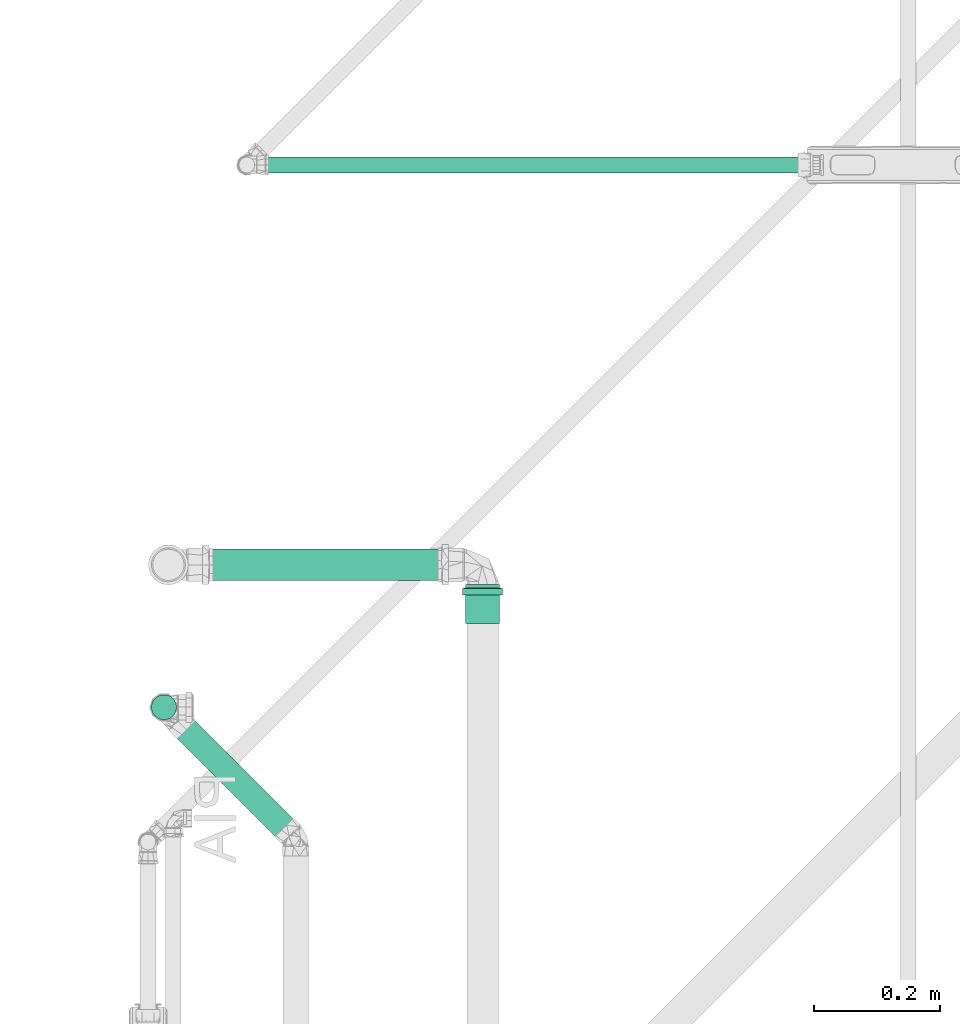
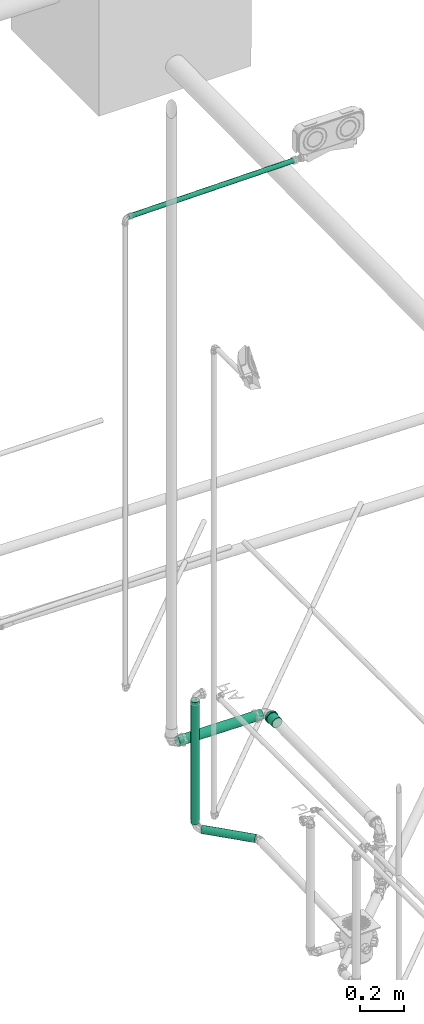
# One storey, part 201 of 589: 4 flow segments, 1 flow fitting.
"""IFC2X3 building model written with IfcOpenShell, lengths in millimetres."""

from ifc_helpers import new_model, entity, si_unit, converted_unit, derived_unit, direction, frame, frame_2d, origin, origin_2d_with_axis, place, context, subcontext, project, spatial, circle, extrude, faceted_brep, source, transform, mapped, material, type_object, type_shapes, element, save


model = new_model("IFC2X3")

# Units and contexts
model_context = context("Model", 3, precision=0.01, world=origin(), true_north=direction((6.123031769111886e-17, 1.0)))
body_context = subcontext(model_context, "Body", "Model", "MODEL_VIEW")
ifc_project = project(units=[si_unit("LENGTHUNIT", "METRE", prefix="MILLI"), si_unit("AREAUNIT", "SQUARE_METRE"), si_unit("VOLUMEUNIT", "CUBIC_METRE"), converted_unit("PLANEANGLEUNIT", "DEGREE", entity("IfcRatioMeasure", 0.017453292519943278), si_unit("PLANEANGLEUNIT", "RADIAN"), dimensions=[0, 0, 0, 0, 0, 0, 0]), si_unit("MASSUNIT", "GRAM", prefix="KILO"), derived_unit("MASSDENSITYUNIT", [(si_unit("MASSUNIT", "GRAM", prefix="KILO"), 1), (si_unit("LENGTHUNIT", "METRE"), -3)]), derived_unit("IONCONCENTRATIONUNIT", [(si_unit("MASSUNIT", "GRAM", prefix="KILO"), 1), (si_unit("LENGTHUNIT", "METRE"), -3)]), derived_unit("MOMENTOFINERTIAUNIT", [(si_unit("LENGTHUNIT", "METRE"), 4)]), si_unit("TIMEUNIT", "SECOND"), si_unit("FREQUENCYUNIT", "HERTZ"), si_unit("THERMODYNAMICTEMPERATUREUNIT", "DEGREE_CELSIUS"), derived_unit("THERMALTRANSMITTANCEUNIT", [(si_unit("MASSUNIT", "GRAM", prefix="KILO"), 1), (si_unit("THERMODYNAMICTEMPERATUREUNIT", "KELVIN"), -1), (si_unit("TIMEUNIT", "SECOND"), -3)]), derived_unit("THERMALCONDUCTANCEUNIT", [(si_unit("MASSUNIT", "GRAM", prefix="KILO"), 1), (si_unit("THERMODYNAMICTEMPERATUREUNIT", "KELVIN"), -1), (si_unit("TIMEUNIT", "SECOND"), -3), (si_unit("LENGTHUNIT", "METRE"), 1)]), derived_unit("VOLUMETRICFLOWRATEUNIT", [(si_unit("LENGTHUNIT", "METRE"), 3), (si_unit("TIMEUNIT", "SECOND"), -1)]), derived_unit("MASSFLOWRATEUNIT", [(si_unit("MASSUNIT", "GRAM", prefix="KILO"), 1), (si_unit("TIMEUNIT", "SECOND"), -1)]), derived_unit("ROTATIONALFREQUENCYUNIT", [(si_unit("TIMEUNIT", "SECOND"), -1)]), si_unit("ELECTRICCURRENTUNIT", "AMPERE"), si_unit("ELECTRICVOLTAGEUNIT", "VOLT"), si_unit("POWERUNIT", "WATT"), si_unit("FORCEUNIT", "NEWTON", prefix="KILO"), si_unit("ILLUMINANCEUNIT", "LUX"), si_unit("LUMINOUSFLUXUNIT", "LUMEN"), si_unit("LUMINOUSINTENSITYUNIT", "CANDELA"), derived_unit("USERDEFINED", [(si_unit("MASSUNIT", "GRAM", prefix="KILO"), -1), (si_unit("LENGTHUNIT", "METRE"), -2), (si_unit("TIMEUNIT", "SECOND"), 3), (si_unit("LUMINOUSFLUXUNIT", "LUMEN"), 1)]), derived_unit("USERDEFINED", [(si_unit("MASSUNIT", "GRAM", prefix="KILO"), 1), (si_unit("TIMEUNIT", "SECOND"), -3), (si_unit("LENGTHUNIT", "METRE"), 3), (si_unit("ELECTRICCURRENTUNIT", "AMPERE"), -2)]), derived_unit("SOUNDPOWERUNIT", [(si_unit("MASSUNIT", "GRAM", prefix="KILO"), 1), (si_unit("TIMEUNIT", "SECOND"), -3), (si_unit("LENGTHUNIT", "METRE"), 2)]), derived_unit("SOUNDPRESSUREUNIT", [(si_unit("MASSUNIT", "GRAM", prefix="KILO"), 1), (si_unit("LENGTHUNIT", "METRE"), -1), (si_unit("TIMEUNIT", "SECOND"), -2)]), derived_unit("LINEARVELOCITYUNIT", [(si_unit("LENGTHUNIT", "METRE"), 1), (si_unit("TIMEUNIT", "SECOND"), -1)]), si_unit("PRESSUREUNIT", "PASCAL"), derived_unit("USERDEFINED", [(si_unit("MASSUNIT", "GRAM", prefix="KILO"), 1), (si_unit("LENGTHUNIT", "METRE"), -2), (si_unit("TIMEUNIT", "SECOND"), -2)]), derived_unit("LINEARFORCEUNIT", [(si_unit("MASSUNIT", "GRAM", prefix="KILO"), 1), (si_unit("TIMEUNIT", "SECOND"), -2)]), derived_unit("PLANARFORCEUNIT", [(si_unit("MASSUNIT", "GRAM", prefix="KILO"), 1), (si_unit("LENGTHUNIT", "METRE"), -1), (si_unit("TIMEUNIT", "SECOND"), -2)]), derived_unit("SPECIFICHEATCAPACITYUNIT", [(si_unit("THERMODYNAMICTEMPERATUREUNIT", "KELVIN"), -1), (si_unit("LENGTHUNIT", "METRE"), 2), (si_unit("TIMEUNIT", "SECOND"), -2)]), derived_unit("HEATINGVALUEUNIT", [(si_unit("LENGTHUNIT", "METRE"), 2), (si_unit("TIMEUNIT", "SECOND"), -2)]), derived_unit("VAPORPERMEABILITYUNIT", [(si_unit("LENGTHUNIT", "METRE"), -1), (si_unit("TIMEUNIT", "SECOND"), 1)]), derived_unit("DYNAMICVISCOSITYUNIT", [(si_unit("MASSUNIT", "GRAM", prefix="KILO"), 1), (si_unit("TIMEUNIT", "SECOND"), -1), (si_unit("LENGTHUNIT", "METRE"), -1)]), derived_unit("THERMALEXPANSIONCOEFFICIENTUNIT", [(si_unit("THERMODYNAMICTEMPERATUREUNIT", "KELVIN"), -1)]), derived_unit("MODULUSOFELASTICITYUNIT", [(si_unit("MASSUNIT", "GRAM", prefix="KILO"), 1), (si_unit("LENGTHUNIT", "METRE"), -1), (si_unit("TIMEUNIT", "SECOND"), -2)]), derived_unit("ISOTHERMALMOISTURECAPACITYUNIT", [(si_unit("LENGTHUNIT", "METRE"), 3), (si_unit("MASSUNIT", "GRAM", prefix="KILO"), -1)]), derived_unit("MOISTUREDIFFUSIVITYUNIT", [(si_unit("TIMEUNIT", "SECOND"), -1), (si_unit("LENGTHUNIT", "METRE"), 2)])], contexts=[model_context])

# Site, building, storey
site_placement = place(None, origin())
site = spatial("IfcSite", under=ifc_project, at=site_placement, Name="Default", CompositionType="ELEMENT")
building_placement = place(site_placement, origin())
building = spatial("IfcBuilding", under=site, at=building_placement, CompositionType="ELEMENT")
storey_placement = place(building_placement, frame((0.0, 0.0, 100.0)))
storey = spatial("IfcBuildingStorey", under=building, at=storey_placement, Name="TÉRREO", CompositionType="ELEMENT", Elevation=100.0)

# Flow segments
pipe_segment_type_1 = type_object("IfcPipeSegmentType", Name="Tipos de tubos:PVC Esgoto Série Normal", PredefinedType="NOTDEFINED")
flow_segment_1_placement = place(storey_placement, origin())
element("IfcFlowSegment", 1, at=flow_segment_1_placement, inside=storey, type_object=pipe_segment_type_1, Name="Tipos de tubos:PVC Esgoto Série Normal", ObjectType="Tipos de tubos:PVC Esgoto Série Normal", context=body_context, shape_type="SweptSolid", body=[
    extrude(circle(Radius=20.0, at=frame_2d((2.9351172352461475e-32, 1.6916496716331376e-14), x_axis=(1.0, 0.0))), frame((7541.059678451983, 422.5035595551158, -237.90237167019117), z_axis=(-0.7070394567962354, 0.7068980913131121, 0.01975588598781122), x_axis=(-0.7070360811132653, -0.7071774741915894, 0.0)), (0.0, 0.0, 1.0), 253.07208697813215),
])
flow_segment_2_placement = place(storey_placement, origin())
element("IfcFlowSegment", 2, at=flow_segment_2_placement, inside=storey, type_object=pipe_segment_type_1, Name="Tipos de tubos:PVC Esgoto Série Normal", ObjectType="Tipos de tubos:PVC Esgoto Série Normal", context=body_context, shape_type="SweptSolid", body=[
    extrude(circle(Radius=20.0, at=origin_2d_with_axis()), frame((7339.351820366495, 624.1710881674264, -200.0532468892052)), (0.0, 0.0, 1.0), 678.2532473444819),
])
flow_segment_3_placement = place(storey_placement, origin())
element("IfcFlowSegment", 3, at=flow_segment_3_placement, inside=storey, type_object=pipe_segment_type_1, Name="Tipos de tubos:PVC Esgoto Série Normal", ObjectType="Tipos de tubos:PVC Esgoto Série Normal", context=body_context, shape_type="SweptSolid", body=[
    extrude(circle(Radius=25.0, at=frame_2d((1.353583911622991e-13, -3.383790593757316e-14), x_axis=(1.0, 0.0))), frame((7377.346982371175, 850.8590199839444, 98.13068865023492), z_axis=(0.9999500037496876, 0.0, -0.009999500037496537), x_axis=(0.0, 1.0, 0.0)), (0.0, 0.0, 1.0), 437.88630501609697),
])
pipe_segment_type_2 = type_object("IfcPipeSegmentType", Name="Tipos de tubos:PVC Marrom Soldável", PredefinedType="NOTDEFINED")
flow_segment_4_placement = place(storey_placement, origin())
element("IfcFlowSegment", 4, at=flow_segment_4_placement, inside=storey, type_object=pipe_segment_type_2, Name="Tipos de tubos:PVC Marrom Soldável", ObjectType="Tipos de tubos:PVC Marrom Soldável", context=body_context, shape_type="SweptSolid", body=[
    extrude(circle(Radius=12.5, at=origin_2d_with_axis()), frame((7487.843995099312, 1487.2074695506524, 2577.9470883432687), z_axis=(0.9999500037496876, 0.0, 0.00999950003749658), x_axis=(0.0, 1.0, 0.0)), (0.0, 0.0, 1.0), 877.005019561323),
])

# Flow fitting
ifc_material = material(Name="PVC Série Normal")
pipe_fitting_type = type_object("IfcPipeFittingType", Name="PVC Esgoto_Luva Simples para Conexão_Rodrigo MEP:Standard", PredefinedType="NOTDEFINED", material=ifc_material)
shared_shape = source(origin(), body_context, "Body", "Brep", [
    faceted_brep([(16.599999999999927, -13.599999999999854, -23.555890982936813), (16.599999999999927, -22.485995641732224, -22.485995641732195), (16.599999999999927, -15.900000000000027, -27.53960784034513), (16.599999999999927, -19.233304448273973, -19.233304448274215), (16.599999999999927, -7.039878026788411, -26.273182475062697), (16.599999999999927, -27.539607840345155, -15.899999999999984), (16.599999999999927, -23.55589098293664, -13.600000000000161), (16.599999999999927, -26.273182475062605, -7.03987802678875), (16.599999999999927, -30.716441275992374, -8.230445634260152), (16.599999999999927, -27.2, 0.0), (16.599999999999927, -31.8, 0.0), (16.599999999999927, -26.273182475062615, 7.0398780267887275), (16.599999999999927, -30.71644127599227, 8.23044563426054), (16.599999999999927, -23.555890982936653, 13.60000000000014), (16.599999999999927, -27.539607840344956, 15.900000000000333), (16.599999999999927, -19.233304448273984, 19.2333044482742), (16.599999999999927, -22.485995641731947, 22.48599564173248), (16.599999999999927, -13.599999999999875, 23.555890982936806), (16.599999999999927, -15.899999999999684, 27.53960784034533), (16.599999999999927, -7.039878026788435, 26.27318247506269), (16.599999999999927, -8.230445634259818, 30.716441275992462), (16.599999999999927, 0.0, 27.2), (16.599999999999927, 0.0, 31.8), (16.599999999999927, 7.039878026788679, 26.273182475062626), (16.599999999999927, 8.230445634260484, 30.716441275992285), (16.599999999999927, 13.600000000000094, 23.555890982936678), (16.599999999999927, 15.900000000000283, 27.53960784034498), (16.599999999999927, 19.23330444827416, 19.233304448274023), (16.599999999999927, 22.485995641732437, 22.48599564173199), (16.599999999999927, 23.55589098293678, 13.59999999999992), (16.599999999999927, 27.539607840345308, 15.899999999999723), (16.599999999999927, 30.71644127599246, 8.230445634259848), (16.599999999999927, 26.273182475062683, 7.039878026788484), (16.599999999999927, 31.8, 0.0), (16.599999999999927, 27.2, 0.0), (16.599999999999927, 30.71644127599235, -8.23044563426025), (16.599999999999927, 26.273182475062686, -7.03987802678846), (16.599999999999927, 27.53960784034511, -15.90000000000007), (16.599999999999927, 23.55589098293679, -13.599999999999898), (16.599999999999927, 22.485995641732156, -22.485995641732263), (16.599999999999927, 19.233304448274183, -19.233304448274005), (16.599999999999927, 15.899999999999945, -27.53960784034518), (16.599999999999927, 13.600000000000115, -23.555890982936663), (16.599999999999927, 8.230445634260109, -30.716441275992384), (16.599999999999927, 7.039878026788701, -26.273182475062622), (16.599999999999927, 0.0, -31.8), (16.599999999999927, 0.0, -27.2), (16.599999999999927, -8.2304456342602, -30.71644127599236), (6.5000000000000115, 31.8, 0.0), (6.500000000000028, 30.243828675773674, 9.826028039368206), (6.500000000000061, 18.6933889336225, 25.72541953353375), (6.500000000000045, 25.727620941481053, 18.69035903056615), (6.500000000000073, 9.829589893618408, 30.24267122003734), (6.50000000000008, 0.0037451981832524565, 31.799999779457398), (6.5000000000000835, -9.822466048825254, 30.244985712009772), (6.500000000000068, -25.723217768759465, 18.696418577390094), (6.50000000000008, -18.687328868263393, 25.729821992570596), (6.50000000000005, -30.24167131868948, 9.832665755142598), (6.5000000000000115, -31.8, 0.0), (6.499999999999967, -24.364200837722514, -20.435892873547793), (6.499999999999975, -27.12442527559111, -15.652735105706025), (6.499999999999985, -29.884649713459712, -10.869577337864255), (6.499999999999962, -20.134403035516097, -23.986420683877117), (6.4999999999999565, -15.904605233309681, -27.53694849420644), (6.499999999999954, -10.715490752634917, -29.42653259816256), (6.499999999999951, -5.526376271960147, -31.31611670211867), (6.499999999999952, -0.003927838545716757, -31.316809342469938), (6.499999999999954, 5.518520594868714, -31.317501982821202), (6.499999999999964, 15.897697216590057, -27.54093722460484), (6.499999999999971, 20.128385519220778, -23.99147055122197), (6.499999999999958, 10.70810890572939, -29.42921960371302), (6.499999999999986, 27.12049800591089, -15.659538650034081), (6.499999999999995, 29.881922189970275, -10.877073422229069), (6.499999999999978, 24.359073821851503, -20.442003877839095), (6.499999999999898, 30.69617385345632, -6.259599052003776), (6.500000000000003, 30.84096109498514, -5.438536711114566), (62.0, -12.499999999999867, -21.650635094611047), (62.0, -19.233304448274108, -19.23330444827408), (62.0, -13.600000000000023, -23.55589098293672), (62.0, -6.470476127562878, -24.14814565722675), (62.0, -17.677669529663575, -17.677669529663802), (62.0, -23.55589098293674, -13.599999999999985), (62.0, -21.65063509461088, -12.50000000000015), (62.0, -24.148145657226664, -6.470476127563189), (62.0, -26.27318247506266, -7.039878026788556), (62.0, -25.0, 0.0), (62.0, -27.2, 0.0), (62.0, -24.148145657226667, 6.4704761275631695), (62.0, -26.273182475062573, 7.03987802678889), (62.0, -21.650635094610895, 12.500000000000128), (62.0, -23.555890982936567, 13.600000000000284), (62.0, -17.67766952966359, 17.67766952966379), (62.0, -19.233304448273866, 19.233304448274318), (62.0, -12.499999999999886, 21.650635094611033), (62.0, -13.59999999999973, 23.55589098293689), (62.0, -6.4704761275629, 24.14814565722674), (62.0, -7.039878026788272, 26.273182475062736), (62.0, 0.0, 25.0), (62.0, 0.0, 27.2), (62.0, 6.470476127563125, 24.148145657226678), (62.0, 7.039878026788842, 26.273182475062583), (62.0, 12.500000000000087, 21.650635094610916), (62.0, 13.600000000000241, 23.555890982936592), (62.0, 17.677669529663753, 17.677669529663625), (62.0, 19.233304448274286, 19.2333044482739), (62.0, 21.65063509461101, 12.499999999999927), (62.0, 23.555890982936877, 13.599999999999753), (62.0, 26.27318247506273, 7.039878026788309), (62.0, 24.14814565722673, 6.470476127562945), (62.0, 27.2, 0.0), (62.0, 25.0, 0.0), (62.0, 26.27318247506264, -7.0398780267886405), (62.0, 24.148145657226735, -6.470476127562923), (62.0, 23.5558909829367, -13.600000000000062), (62.0, 21.650635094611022, -12.499999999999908), (62.0, 19.233304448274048, -19.233304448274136), (62.0, 17.67766952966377, -17.677669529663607), (62.0, 13.599999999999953, -23.555890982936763), (62.0, 12.500000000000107, -21.650635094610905), (62.0, 7.039878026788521, -26.27318247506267), (62.0, 6.470476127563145, -24.148145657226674), (62.0, 0.0, -27.2), (62.0, 0.0, -25.0), (62.0, -7.039878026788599, -26.273182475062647), (0.0, -13.600000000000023, -23.55589098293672), (0.0, -19.233304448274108, -19.23330444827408), (0.0, -12.499999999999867, -21.650635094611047), (0.0, -6.470476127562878, -24.14814565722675), (0.0, -7.039878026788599, -26.273182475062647), (0.0, -17.677669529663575, -17.677669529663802), (0.0, -23.55589098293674, -13.599999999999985), (0.0, -21.65063509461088, -12.50000000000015), (0.0, -24.148145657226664, -6.470476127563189), (0.0, -26.27318247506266, -7.039878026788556), (0.0, -25.0, 0.0), (0.0, -27.2, 0.0), (0.0, -24.148145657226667, 6.4704761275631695), (0.0, -26.273182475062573, 7.03987802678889), (0.0, -21.650635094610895, 12.500000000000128), (0.0, -23.555890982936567, 13.600000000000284), (0.0, -17.67766952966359, 17.67766952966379), (0.0, -19.233304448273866, 19.233304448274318), (0.0, -12.499999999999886, 21.650635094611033), (0.0, -13.59999999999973, 23.55589098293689), (0.0, -6.4704761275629, 24.14814565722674), (0.0, -7.039878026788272, 26.273182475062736), (0.0, 0.0, 25.0), (0.0, 0.0, 27.2), (0.0, 6.470476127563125, 24.148145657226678), (0.0, 7.039878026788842, 26.273182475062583), (0.0, 12.500000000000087, 21.650635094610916), (0.0, 13.600000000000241, 23.555890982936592), (0.0, 17.677669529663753, 17.677669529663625), (0.0, 19.233304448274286, 19.2333044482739), (0.0, 21.65063509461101, 12.499999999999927), (0.0, 23.555890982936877, 13.599999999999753), (0.0, 26.27318247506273, 7.039878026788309), (0.0, 24.14814565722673, 6.470476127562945), (0.0, 27.2, 0.0), (0.0, 25.0, 0.0), (0.0, 26.27318247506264, -7.0398780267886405), (0.0, 24.148145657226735, -6.470476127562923), (0.0, 23.5558909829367, -13.600000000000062), (0.0, 21.650635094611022, -12.499999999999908), (0.0, 19.233304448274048, -19.233304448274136), (0.0, 17.67766952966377, -17.677669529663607), (0.0, 13.599999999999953, -23.555890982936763), (0.0, 12.500000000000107, -21.650635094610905), (0.0, 7.039878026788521, -26.27318247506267), (0.0, 6.470476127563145, -24.148145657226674), (0.0, 0.0, -27.2), (0.0, 0.0, -25.0), (5.299999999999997, 27.2, 0.0), (5.300000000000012, 25.868346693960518, 8.406464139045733), (5.300000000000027, 22.003776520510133, 15.989803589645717), (5.30000000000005, 8.400454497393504, 25.870298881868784), (5.300000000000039, 15.9846915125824, 22.007490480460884), (5.300000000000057, -0.00631876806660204, 27.199999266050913), (5.30000000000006, -8.412473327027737, 25.866393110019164), (5.3000000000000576, -15.99491480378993, 22.00006137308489), (5.300000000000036, -25.8722496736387, 8.394444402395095), (5.30000000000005, -22.011203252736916, 15.97957857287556), (5.299999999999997, -27.2, 0.0), (5.299999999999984, -25.56171296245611, -9.29724854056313), (5.2999999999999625, -17.22187932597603, -20.516686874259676), (5.299999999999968, -20.839819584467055, -17.47975742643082), (5.299999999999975, -23.200766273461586, -13.388502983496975), (5.2999999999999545, -9.165451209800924, -25.169864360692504), (5.299999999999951, -4.726963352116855, -26.78611239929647), (5.299999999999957, -13.603939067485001, -23.553616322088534), (5.29999999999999, 26.379689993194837, -4.651830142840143), (5.299999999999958, 13.5980303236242, -23.55702806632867), (5.299999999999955, 9.159137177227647, -25.17216267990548), (5.299999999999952, 4.720244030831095, -26.787297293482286), (5.299999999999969, 20.83543421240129, -17.484984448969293), (5.299999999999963, 17.216732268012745, -20.52100625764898), (5.299999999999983, 25.559379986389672, -9.303660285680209), (5.299999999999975, 23.197407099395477, -13.394322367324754), (5.299999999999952, -0.0033596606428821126, -26.78670484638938), (39.0, 25.0, 0.0), (39.0, -25.0, 0.0)], [[[0, 1, 2]], [[3, 1, 0]], [[4, 0, 2]], [[1, 3, 5]], [[5, 3, 6]], [[5, 6, 7]], [[8, 5, 7]], [[9, 8, 7]], [[10, 8, 9]], [[10, 9, 11]], [[12, 10, 11]], [[12, 11, 13]], [[14, 12, 13]], [[14, 13, 15]], [[15, 16, 14]], [[15, 17, 16]], [[17, 18, 16]], [[19, 18, 17]], [[18, 19, 20]], [[21, 20, 19]], [[22, 20, 21]], [[23, 22, 21]], [[24, 22, 23]], [[25, 24, 23]], [[24, 25, 26]], [[25, 27, 26]], [[28, 26, 27]], [[28, 27, 29]], [[28, 29, 30]], [[30, 29, 31]], [[31, 29, 32]], [[33, 31, 32]], [[33, 32, 34]], [[33, 34, 35]], [[34, 36, 35]], [[37, 35, 36]], [[37, 36, 38]], [[39, 37, 38]], [[40, 39, 38]], [[40, 41, 39]], [[42, 41, 40]], [[43, 41, 42]], [[42, 44, 43]], [[43, 44, 45]], [[44, 46, 45]], [[46, 4, 47]], [[45, 46, 47]], [[2, 47, 4]], [[33, 48, 31]], [[31, 49, 30]], [[26, 28, 50]], [[51, 28, 30]], [[24, 26, 52]], [[49, 51, 30]], [[31, 48, 49]], [[50, 52, 26]], [[28, 51, 50]], [[52, 53, 24]], [[53, 22, 24]], [[20, 53, 54]], [[20, 54, 18]], [[14, 16, 55]], [[56, 16, 18]], [[12, 14, 57]], [[56, 55, 16]], [[18, 54, 56]], [[57, 58, 12]], [[14, 55, 57]], [[58, 10, 12]], [[22, 53, 20]], [[8, 10, 58]], [[59, 1, 5]], [[60, 59, 5, 61]], [[2, 62, 63]], [[8, 58, 61]], [[2, 63, 64]], [[47, 2, 64]], [[64, 65, 47]], [[62, 1, 59]], [[66, 67, 45, 65]], [[41, 68, 69]], [[1, 62, 2]], [[39, 41, 69]], [[8, 61, 5]], [[43, 45, 67]], [[68, 41, 70]], [[71, 72, 37, 73]], [[43, 70, 41]], [[72, 35, 37]], [[69, 73, 39]], [[70, 43, 67]], [[47, 65, 45]], [[39, 73, 37]], [[35, 72, 74, 75]], [[33, 75, 48]], [[35, 75, 33]], [[76, 77, 78]], [[79, 76, 78]], [[80, 77, 76]], [[77, 80, 81]], [[82, 81, 80]], [[83, 81, 82]], [[81, 83, 84]], [[83, 85, 84]], [[86, 84, 85]], [[86, 85, 87]], [[87, 88, 86]], [[89, 88, 87]], [[88, 89, 90]], [[91, 90, 89]], [[92, 90, 91]], [[92, 91, 93]], [[93, 94, 92]], [[95, 94, 93]], [[94, 95, 96]], [[97, 96, 95]], [[98, 96, 97]], [[99, 98, 97]], [[100, 98, 99]], [[101, 100, 99]], [[100, 101, 102]], [[101, 103, 102]], [[104, 102, 103]], [[103, 105, 104]], [[104, 105, 106]], [[107, 106, 105]], [[105, 108, 107]], [[107, 108, 109]], [[108, 110, 109]], [[109, 110, 111]], [[110, 112, 111]], [[113, 111, 112]], [[112, 114, 113]], [[115, 113, 114]], [[116, 115, 114]], [[116, 117, 115]], [[118, 117, 116]], [[119, 117, 118]], [[118, 120, 119]], [[119, 120, 121]], [[120, 122, 121]], [[122, 79, 123]], [[121, 122, 123]], [[78, 123, 79]], [[124, 125, 126]], [[124, 126, 127]], [[127, 128, 124]], [[126, 125, 129]], [[130, 129, 125]], [[129, 130, 131]], [[131, 130, 132]], [[133, 132, 130]], [[133, 134, 132]], [[134, 133, 135]], [[136, 134, 135]], [[135, 137, 136]], [[136, 137, 138]], [[139, 138, 137]], [[138, 139, 140]], [[140, 139, 141]], [[142, 140, 141]], [[141, 143, 142]], [[142, 143, 144]], [[145, 144, 143]], [[144, 145, 146]], [[146, 145, 147]], [[146, 147, 148]], [[148, 147, 149]], [[148, 149, 150]], [[151, 150, 149]], [[151, 152, 150]], [[152, 151, 153]], [[153, 154, 152]], [[155, 154, 153]], [[154, 155, 156]], [[156, 157, 154]], [[158, 157, 156]], [[158, 159, 157]], [[160, 159, 158]], [[160, 161, 159]], [[161, 160, 162]], [[162, 163, 161]], [[163, 162, 164]], [[163, 164, 165]], [[164, 166, 165]], [[165, 166, 167]], [[167, 166, 168]], [[168, 169, 167]], [[170, 169, 168]], [[128, 171, 170]], [[170, 171, 169]], [[128, 127, 171]], [[172, 156, 173]], [[173, 155, 174]], [[175, 176, 151]], [[175, 149, 177]], [[153, 176, 174]], [[177, 149, 147]], [[156, 155, 173]], [[172, 158, 156]], [[32, 107, 109, 34]], [[153, 151, 176]], [[174, 155, 153]], [[151, 149, 175]], [[177, 145, 178]], [[178, 143, 179]], [[180, 181, 139]], [[141, 181, 179]], [[182, 180, 137]], [[143, 141, 179]], [[178, 145, 143]], [[139, 137, 180]], [[181, 141, 139]], [[137, 135, 182]], [[86, 88, 11, 9]], [[147, 145, 177]], [[183, 182, 133]], [[184, 185, 125]], [[186, 183, 130, 185]], [[187, 128, 188]], [[183, 133, 130]], [[182, 135, 133]], [[86, 9, 7, 84]], [[128, 187, 124]], [[124, 189, 184]], [[125, 185, 130]], [[160, 158, 190]], [[166, 191, 192]], [[187, 189, 124]], [[168, 166, 192]], [[188, 128, 170]], [[125, 124, 184]], [[192, 193, 168]], [[194, 195, 164]], [[190, 196, 160]], [[197, 194, 162, 196]], [[160, 196, 162]], [[164, 195, 166]], [[198, 188, 170, 193]], [[168, 193, 170]], [[194, 164, 162]], [[166, 195, 191]], [[158, 172, 190]], [[199, 110, 108, 157, 159]], [[103, 101, 150, 152]], [[152, 154, 105, 103]], [[154, 157, 108, 105]], [[148, 150, 101, 99]], [[99, 97, 146, 148]], [[144, 146, 97, 95]], [[93, 142, 144, 95]], [[89, 87, 136, 138]], [[138, 140, 91, 89]], [[140, 142, 93, 91]], [[200, 134, 136, 87, 85]], [[85, 83, 132, 134, 200]], [[80, 76, 126, 129]], [[132, 83, 82, 131]], [[80, 129, 131, 82]], [[127, 126, 76, 79]], [[79, 122, 171, 127]], [[169, 171, 122, 120]], [[118, 167, 169, 120]], [[114, 112, 161, 163]], [[163, 165, 116, 114]], [[165, 167, 118, 116]], [[199, 159, 161, 112, 110]], [[190, 172, 48, 75, 74, 72, 196]], [[197, 196, 72, 71, 73, 194]], [[195, 194, 73, 69, 68, 191]], [[68, 70, 67, 193, 192, 191]], [[66, 65, 188, 198, 193, 67]], [[63, 189, 187, 188, 65, 64]], [[58, 182, 183, 61]], [[59, 60, 61, 183, 186, 185]], [[63, 62, 59, 185, 184, 189]], [[57, 181, 180]], [[54, 177, 178]], [[56, 178, 179]], [[55, 179, 181]], [[58, 180, 182]], [[58, 57, 180]], [[181, 57, 55]], [[55, 56, 179]], [[56, 54, 178]], [[54, 53, 177]], [[52, 176, 175]], [[49, 172, 173]], [[51, 173, 174]], [[50, 174, 176]], [[52, 50, 176]], [[175, 53, 52]], [[50, 51, 174]], [[173, 51, 49]], [[172, 49, 48]], [[177, 53, 175]], [[106, 107, 32, 29]], [[102, 104, 27, 25]], [[27, 104, 106, 29]], [[100, 102, 25, 23]], [[23, 21, 98, 100]], [[94, 96, 19, 17]], [[94, 17, 15, 92]], [[88, 90, 13, 11]], [[13, 90, 92, 15]], [[98, 21, 19, 96]], [[84, 7, 6, 81]], [[0, 4, 123, 78]], [[77, 81, 6, 3]], [[77, 3, 0, 78]], [[4, 46, 121, 123]], [[117, 119, 44, 42]], [[117, 42, 40, 115]], [[111, 113, 38, 36]], [[38, 113, 115, 40]], [[109, 111, 36, 34]], [[121, 46, 44, 119]]]),
])
type_shapes(pipe_fitting_type, [shared_shape])
flow_fitting_placement = place(storey_placement, frame((7846.407235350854, 819.6631793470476, 93.12812771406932), z_axis=(0.009999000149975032, -0.009999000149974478, 0.9999000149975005), x_axis=(0.0, -0.9999500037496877, -0.00999950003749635)))
element("IfcFlowFitting", 5, at=flow_fitting_placement, inside=storey, type_object=pipe_fitting_type, material=ifc_material, Name="PVC Esgoto_Luva Simples para Conexão_Rodrigo MEP:Standard", ObjectType="PVC Esgoto_Luva Simples para Conexão_Rodrigo MEP:Standard", context=body_context, shape_type="MappedRepresentation", body=[
    mapped(shared_shape, transform((0.0, 0.0, 0.0), scale=1.0)),
])

save(model, "model.ifc")
